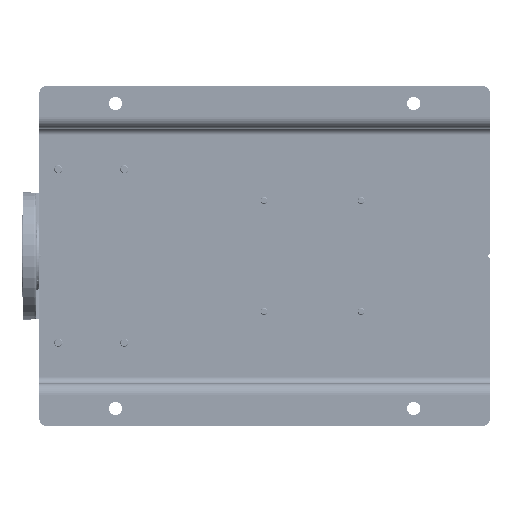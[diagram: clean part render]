
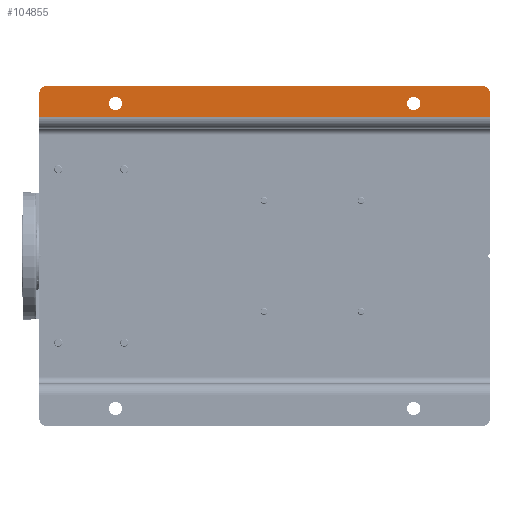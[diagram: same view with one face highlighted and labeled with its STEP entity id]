
A CAD part, front view. The second image highlights one B-rep face of the part: STEP entity #104855.
In plain terms, the highlighted planar face has unit normal (0, -1, 0).
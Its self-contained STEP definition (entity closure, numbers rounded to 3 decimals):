
#6415 = CARTESIAN_POINT ( 'NONE',  ( 474.5, 0., -540. ) ) ;
#12322 = AXIS2_PLACEMENT_3D ( 'NONE', #120663, #122478, #81617 ) ;
#12617 = AXIS2_PLACEMENT_3D ( 'NONE', #182537, #173182, #145360 ) ;
#18689 = VERTEX_POINT ( 'NONE', #128139 ) ;
#18935 = DIRECTION ( 'NONE',  ( 0., 0., -1. ) ) ;
#21514 = CIRCLE ( 'NONE', #119432, 9.5 ) ;
#24212 = DIRECTION ( 'NONE',  ( 0., 0., -1. ) ) ;
#25456 = DIRECTION ( 'NONE',  ( 0., 0., -1. ) ) ;
#27425 = VERTEX_POINT ( 'NONE', #63090 ) ;
#30109 = CARTESIAN_POINT ( 'NONE',  ( 480., 0., -10. ) ) ;
#30150 = EDGE_LOOP ( 'NONE', ( #148274, #36139 ) ) ;
#32531 = PLANE ( 'NONE',  #150321 ) ;
#33169 = DIRECTION ( 'NONE',  ( 0., 0., -1. ) ) ;
#33456 = DIRECTION ( 'NONE',  ( 1., 0., 0. ) ) ;
#36139 = ORIENTED_EDGE ( 'NONE', *, *, #93147, .T. ) ;
#38143 = CARTESIAN_POINT ( 'NONE',  ( 465., 0., -110. ) ) ;
#41242 = CARTESIAN_POINT ( 'NONE',  ( 445., 0., -650. ) ) ;
#41821 = EDGE_LOOP ( 'NONE', ( #94909, #152302 ) ) ;
#46455 = FACE_OUTER_BOUND ( 'NONE', #95040, .T. ) ;
#48325 = EDGE_CURVE ( 'NONE', #152913, #64818, #77972, .T. ) ;
#51216 = CARTESIAN_POINT ( 'NONE',  ( 480., 0., 0. ) ) ;
#61346 = CIRCLE ( 'NONE', #132469, 10. ) ;
#62108 = VECTOR ( 'NONE', #177758, 1000. ) ;
#63090 = CARTESIAN_POINT ( 'NONE',  ( 455.5, 0., -110. ) ) ;
#63785 = ORIENTED_EDGE ( 'NONE', *, *, #146123, .T. ) ;
#63823 = VECTOR ( 'NONE', #82989, 1000. ) ;
#64505 = LINE ( 'NONE', #121107, #173279 ) ;
#64818 = VERTEX_POINT ( 'NONE', #77081 ) ;
#66072 = CARTESIAN_POINT ( 'NONE',  ( 445., 0., 0. ) ) ;
#66258 = CARTESIAN_POINT ( 'NONE',  ( 474.5, 0., -110. ) ) ;
#69809 = CARTESIAN_POINT ( 'NONE',  ( 445., 0., -650. ) ) ;
#70584 = CIRCLE ( 'NONE', #174226, 9.5 ) ;
#76124 = FACE_BOUND ( 'NONE', #30150, .T. ) ;
#77081 = CARTESIAN_POINT ( 'NONE',  ( 480., 0., -650. ) ) ;
#77585 = EDGE_CURVE ( 'NONE', #134653, #87524, #175920, .T. ) ;
#77972 = LINE ( 'NONE', #117932, #88859 ) ;
#80542 = CARTESIAN_POINT ( 'NONE',  ( 455.5, 0., -540. ) ) ;
#81131 = LINE ( 'NONE', #41242, #63823 ) ;
#81617 = DIRECTION ( 'NONE',  ( 0., 0., -1. ) ) ;
#82071 = DIRECTION ( 'NONE',  ( 0., 0., 1. ) ) ;
#82350 = EDGE_CURVE ( 'NONE', #166634, #173423, #21514, .T. ) ;
#82989 = DIRECTION ( 'NONE',  ( 0., 0., -1. ) ) ;
#84786 = CARTESIAN_POINT ( 'NONE',  ( 465., 0., -540. ) ) ;
#84882 = DIRECTION ( 'NONE',  ( 0., -1., 0. ) ) ;
#87524 = VERTEX_POINT ( 'NONE', #51216 ) ;
#88859 = VECTOR ( 'NONE', #33456, 1000. ) ;
#91534 = CARTESIAN_POINT ( 'NONE',  ( 429., 0., 0. ) ) ;
#91924 = ORIENTED_EDGE ( 'NONE', *, *, #114429, .T. ) ;
#93147 = EDGE_CURVE ( 'NONE', #150610, #27425, #95680, .T. ) ;
#93817 = DIRECTION ( 'NONE',  ( 0., 1., 0. ) ) ;
#94909 = ORIENTED_EDGE ( 'NONE', *, *, #158655, .T. ) ;
#95040 = EDGE_LOOP ( 'NONE', ( #172686, #147845, #178611, #63785, #128509, #91924 ) ) ;
#95680 = CIRCLE ( 'NONE', #12617, 9.5 ) ;
#95751 = AXIS2_PLACEMENT_3D ( 'NONE', #38143, #93817, #24212 ) ;
#101277 = VERTEX_POINT ( 'NONE', #111872 ) ;
#102145 = FACE_BOUND ( 'NONE', #41821, .T. ) ;
#104620 = DIRECTION ( 'NONE',  ( 0., 1., 0. ) ) ;
#104855 = ADVANCED_FACE ( 'NONE', ( #76124, #102145, #46455 ), #32531, .T. ) ;
#111872 = CARTESIAN_POINT ( 'NONE',  ( 490., 0., -10. ) ) ;
#113510 = CIRCLE ( 'NONE', #95751, 9.5 ) ;
#114429 = EDGE_CURVE ( 'NONE', #101277, #87524, #61346, .T. ) ;
#117932 = CARTESIAN_POINT ( 'NONE',  ( 429., 0., -650. ) ) ;
#119432 = AXIS2_PLACEMENT_3D ( 'NONE', #84786, #152568, #25456 ) ;
#120663 = CARTESIAN_POINT ( 'NONE',  ( 480., 0., -640. ) ) ;
#121107 = CARTESIAN_POINT ( 'NONE',  ( 490., 0., -650. ) ) ;
#122478 = DIRECTION ( 'NONE',  ( 0., -1., 0. ) ) ;
#128139 = CARTESIAN_POINT ( 'NONE',  ( 490., 0., -640. ) ) ;
#128509 = ORIENTED_EDGE ( 'NONE', *, *, #139049, .T. ) ;
#131781 = DIRECTION ( 'NONE',  ( 0., -1., 0. ) ) ;
#132469 = AXIS2_PLACEMENT_3D ( 'NONE', #30109, #84882, #18935 ) ;
#132719 = DIRECTION ( 'NONE',  ( 0., 0., -1. ) ) ;
#134653 = VERTEX_POINT ( 'NONE', #66072 ) ;
#139049 = EDGE_CURVE ( 'NONE', #18689, #101277, #64505, .T. ) ;
#145360 = DIRECTION ( 'NONE',  ( 0., 0., -1. ) ) ;
#146123 = EDGE_CURVE ( 'NONE', #64818, #18689, #160503, .T. ) ;
#147845 = ORIENTED_EDGE ( 'NONE', *, *, #152192, .T. ) ;
#148274 = ORIENTED_EDGE ( 'NONE', *, *, #148636, .T. ) ;
#148636 = EDGE_CURVE ( 'NONE', #27425, #150610, #113510, .T. ) ;
#150321 = AXIS2_PLACEMENT_3D ( 'NONE', #172617, #131781, #132719 ) ;
#150610 = VERTEX_POINT ( 'NONE', #66258 ) ;
#152192 = EDGE_CURVE ( 'NONE', #134653, #152913, #81131, .T. ) ;
#152302 = ORIENTED_EDGE ( 'NONE', *, *, #82350, .T. ) ;
#152568 = DIRECTION ( 'NONE',  ( 0., 1., 0. ) ) ;
#152913 = VERTEX_POINT ( 'NONE', #69809 ) ;
#158655 = EDGE_CURVE ( 'NONE', #173423, #166634, #70584, .T. ) ;
#160503 = CIRCLE ( 'NONE', #12322, 10. ) ;
#166634 = VERTEX_POINT ( 'NONE', #6415 ) ;
#172617 = CARTESIAN_POINT ( 'NONE',  ( 429., 0., -650. ) ) ;
#172686 = ORIENTED_EDGE ( 'NONE', *, *, #77585, .F. ) ;
#173182 = DIRECTION ( 'NONE',  ( 0., 1., 0. ) ) ;
#173279 = VECTOR ( 'NONE', #82071, 1000. ) ;
#173423 = VERTEX_POINT ( 'NONE', #80542 ) ;
#174226 = AXIS2_PLACEMENT_3D ( 'NONE', #175999, #104620, #33169 ) ;
#175920 = LINE ( 'NONE', #91534, #62108 ) ;
#175999 = CARTESIAN_POINT ( 'NONE',  ( 465., 0., -540. ) ) ;
#177758 = DIRECTION ( 'NONE',  ( 1., 0., 0. ) ) ;
#178611 = ORIENTED_EDGE ( 'NONE', *, *, #48325, .T. ) ;
#182537 = CARTESIAN_POINT ( 'NONE',  ( 465., 0., -110. ) ) ;
